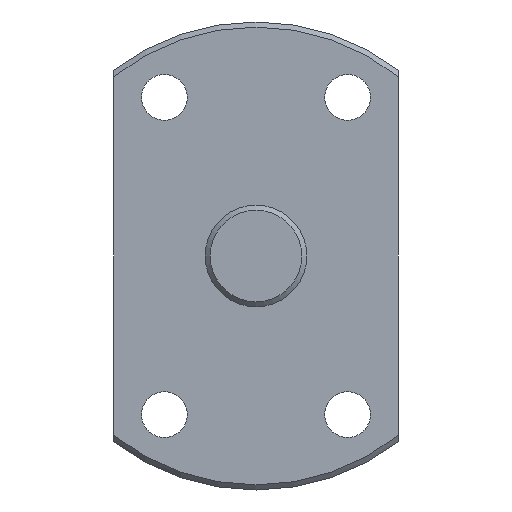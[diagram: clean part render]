
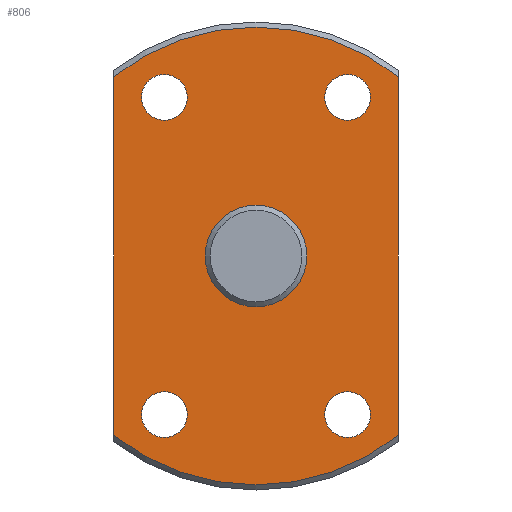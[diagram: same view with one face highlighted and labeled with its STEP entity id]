
A CAD part, left-side view. The second image highlights one B-rep face of the part: STEP entity #806.
In plain terms, the highlighted planar face has unit normal (-1, 0, 0).
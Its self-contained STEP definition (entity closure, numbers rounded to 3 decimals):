
#306=CARTESIAN_POINT('',(165.703,-14.,17.614));
#307=VERTEX_POINT('',#306);
#332=CARTESIAN_POINT('',(165.703,14.,17.614));
#333=VERTEX_POINT('',#332);
#347=CARTESIAN_POINT('',(165.703,0.0,0.0));
#348=DIRECTION('',(1.0,0.0,0.0));
#349=DIRECTION('',(0.0,1.0,0.0));
#350=AXIS2_PLACEMENT_3D('',#347,#348,#349);
#351=CIRCLE('',#350,22.5);
#352=EDGE_CURVE('',#333,#307,#351,.T.);
#395=CARTESIAN_POINT('',(165.703,-14.,-17.614));
#396=VERTEX_POINT('',#395);
#397=CARTESIAN_POINT('',(165.703,-14.,17.614));
#398=DIRECTION('',(0.0,0.0,-1.0));
#399=VECTOR('',#398,35.228);
#400=LINE('',#397,#399);
#401=EDGE_CURVE('',#307,#396,#400,.T.);
#471=CARTESIAN_POINT('',(165.703,14.,-17.614));
#472=VERTEX_POINT('',#471);
#496=CARTESIAN_POINT('',(165.703,0.0,0.0));
#497=DIRECTION('',(1.0,0.0,0.0));
#498=DIRECTION('',(0.0,1.0,0.0));
#499=AXIS2_PLACEMENT_3D('',#496,#497,#498);
#500=CIRCLE('',#499,22.5);
#501=EDGE_CURVE('',#396,#472,#500,.T.);
#576=CARTESIAN_POINT('',(165.703,14.,-17.614));
#577=DIRECTION('',(0.0,0.0,1.0));
#578=VECTOR('',#577,35.228);
#579=LINE('',#576,#578);
#580=EDGE_CURVE('',#472,#333,#579,.T.);
#688=CARTESIAN_POINT('',(165.703,5.0,0.));
#689=VERTEX_POINT('',#688);
#690=CARTESIAN_POINT('',(165.703,0.0,0.0));
#691=DIRECTION('',(1.0,0.0,0.0));
#692=DIRECTION('',(0.0,-1.0,0.0));
#693=AXIS2_PLACEMENT_3D('',#690,#691,#692);
#694=CIRCLE('',#693,5.0);
#695=EDGE_CURVE('',#689,#689,#694,.T.);
#708=CARTESIAN_POINT('',(165.703,11.25,-15.588));
#709=VERTEX_POINT('',#708);
#710=CARTESIAN_POINT('',(165.703,9.,-15.588));
#711=DIRECTION('',(1.0,0.0,0.0));
#712=DIRECTION('',(0.0,1.0,0.0));
#713=AXIS2_PLACEMENT_3D('',#710,#711,#712);
#714=CIRCLE('',#713,2.25);
#715=EDGE_CURVE('',#709,#709,#714,.T.);
#728=CARTESIAN_POINT('',(165.703,-6.75,15.588));
#729=VERTEX_POINT('',#728);
#730=CARTESIAN_POINT('',(165.703,-9.,15.588));
#731=DIRECTION('',(1.0,0.0,0.0));
#732=DIRECTION('',(0.0,1.0,0.0));
#733=AXIS2_PLACEMENT_3D('',#730,#731,#732);
#734=CIRCLE('',#733,2.25);
#735=EDGE_CURVE('',#729,#729,#734,.T.);
#748=CARTESIAN_POINT('',(165.703,11.25,15.588));
#749=VERTEX_POINT('',#748);
#750=CARTESIAN_POINT('',(165.703,9.,15.588));
#751=DIRECTION('',(1.0,0.0,0.0));
#752=DIRECTION('',(0.0,1.0,0.0));
#753=AXIS2_PLACEMENT_3D('',#750,#751,#752);
#754=CIRCLE('',#753,2.25);
#755=EDGE_CURVE('',#749,#749,#754,.T.);
#768=CARTESIAN_POINT('',(165.703,-6.75,-15.588));
#769=VERTEX_POINT('',#768);
#770=CARTESIAN_POINT('',(165.703,-9.,-15.588));
#771=DIRECTION('',(1.0,0.0,0.0));
#772=DIRECTION('',(0.0,1.0,0.0));
#773=AXIS2_PLACEMENT_3D('',#770,#771,#772);
#774=CIRCLE('',#773,2.25);
#775=EDGE_CURVE('',#769,#769,#774,.T.);
#780=CARTESIAN_POINT('',(165.703,0.0,0.0));
#781=DIRECTION('',(-1.0,0.0,0.0));
#782=DIRECTION('',(0.0,0.0,1.0));
#783=AXIS2_PLACEMENT_3D('',#780,#781,#782);
#784=PLANE('',#783);
#785=ORIENTED_EDGE('',*,*,#352,.F.);
#786=ORIENTED_EDGE('',*,*,#580,.F.);
#787=ORIENTED_EDGE('',*,*,#501,.F.);
#788=ORIENTED_EDGE('',*,*,#401,.F.);
#789=EDGE_LOOP('',(#785,#786,#787,#788));
#790=FACE_OUTER_BOUND('',#789,.T.);
#791=ORIENTED_EDGE('',*,*,#695,.T.);
#792=EDGE_LOOP('',(#791));
#793=FACE_BOUND('',#792,.T.);
#794=ORIENTED_EDGE('',*,*,#715,.T.);
#795=EDGE_LOOP('',(#794));
#796=FACE_BOUND('',#795,.T.);
#797=ORIENTED_EDGE('',*,*,#735,.T.);
#798=EDGE_LOOP('',(#797));
#799=FACE_BOUND('',#798,.T.);
#800=ORIENTED_EDGE('',*,*,#755,.T.);
#801=EDGE_LOOP('',(#800));
#802=FACE_BOUND('',#801,.T.);
#803=ORIENTED_EDGE('',*,*,#775,.T.);
#804=EDGE_LOOP('',(#803));
#805=FACE_BOUND('',#804,.T.);
#806=ADVANCED_FACE('',(#790,#793,#796,#799,#802,#805),#784,.T.);
